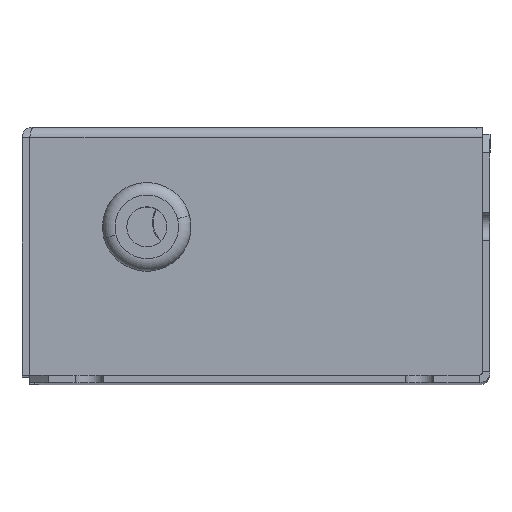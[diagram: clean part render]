
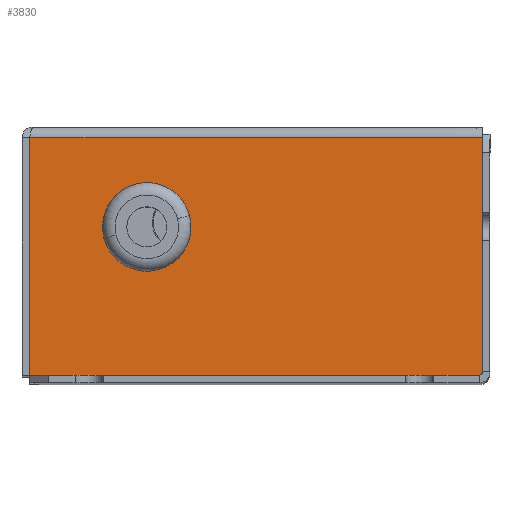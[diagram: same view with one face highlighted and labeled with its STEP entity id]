
A CAD part, top view. The second image highlights one B-rep face of the part: STEP entity #3830.
In plain terms, the highlighted planar face has unit normal (0, 0, 1) as drawn and (0, 0, -1) by its records, which use the part's own axes.
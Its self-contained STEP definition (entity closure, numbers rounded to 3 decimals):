
#369 = CARTESIAN_POINT ( 'NONE',  ( 53.8, -14.8, -160. ) ) ;
#413 = VECTOR ( 'NONE', #6794, 1000. ) ;
#1003 = ORIENTED_EDGE ( 'NONE', *, *, #10880, .F. ) ;
#1259 = EDGE_CURVE ( 'NONE', #9401, #10457, #5170, .T. ) ;
#1325 = CARTESIAN_POINT ( 'NONE',  ( 0., 0., -160. ) ) ;
#1598 = ORIENTED_EDGE ( 'NONE', *, *, #10717, .T. ) ;
#1817 = VERTEX_POINT ( 'NONE', #12427 ) ;
#2208 = DIRECTION ( 'NONE',  ( 0., -1., 0. ) ) ;
#2250 = VERTEX_POINT ( 'NONE', #10045 ) ;
#2308 = DIRECTION ( 'NONE',  ( 0., 1., 0. ) ) ;
#2513 = PLANE ( 'NONE',  #4735 ) ;
#2526 = ORIENTED_EDGE ( 'NONE', *, *, #9393, .T. ) ;
#2735 = ORIENTED_EDGE ( 'NONE', *, *, #9887, .T. ) ;
#2962 = ORIENTED_EDGE ( 'NONE', *, *, #1259, .F. ) ;
#2965 = LINE ( 'NONE', #11500, #413 ) ;
#2986 = EDGE_CURVE ( 'NONE', #10457, #9401, #5732, .T. ) ;
#3437 = DIRECTION ( 'NONE',  ( 0., 0., 1. ) ) ;
#3480 = CARTESIAN_POINT ( 'NONE',  ( 53.8, -14.8, -160. ) ) ;
#3830 = ADVANCED_FACE ( 'NONE', ( #5864, #4653 ), #2513, .F. ) ;
#3899 = VERTEX_POINT ( 'NONE', #10356 ) ;
#4257 = DIRECTION ( 'NONE',  ( 0., 1., 0. ) ) ;
#4408 = AXIS2_PLACEMENT_3D ( 'NONE', #3480, #9225, #6956 ) ;
#4427 = LINE ( 'NONE', #8203, #5937 ) ;
#4653 = FACE_OUTER_BOUND ( 'NONE', #7814, .T. ) ;
#4735 = AXIS2_PLACEMENT_3D ( 'NONE', #5409, #3437, #8145 ) ;
#5139 = AXIS2_PLACEMENT_3D ( 'NONE', #369, #5270, #2308 ) ;
#5170 = CIRCLE ( 'NONE', #5139, 5. ) ;
#5196 = VECTOR ( 'NONE', #4257, 1000. ) ;
#5270 = DIRECTION ( 'NONE',  ( 0., 0., -1. ) ) ;
#5339 = LINE ( 'NONE', #1325, #5196 ) ;
#5409 = CARTESIAN_POINT ( 'NONE',  ( 73.8, 0., -160. ) ) ;
#5659 = VERTEX_POINT ( 'NONE', #6934 ) ;
#5732 = CIRCLE ( 'NONE', #4408, 5. ) ;
#5864 = FACE_BOUND ( 'NONE', #8833, .T. ) ;
#5937 = VECTOR ( 'NONE', #11167, 1000. ) ;
#6014 = CARTESIAN_POINT ( 'NONE',  ( 72.529, 0., -160. ) ) ;
#6794 = DIRECTION ( 'NONE',  ( -1., 0., 0. ) ) ;
#6934 = CARTESIAN_POINT ( 'NONE',  ( 0., -0.5, -160. ) ) ;
#6956 = DIRECTION ( 'NONE',  ( 0., 1., 0. ) ) ;
#7814 = EDGE_LOOP ( 'NONE', ( #1003, #2526, #2735, #1598 ) ) ;
#8089 = LINE ( 'NONE', #6014, #8385 ) ;
#8145 = DIRECTION ( 'NONE',  ( 0., -1., 0. ) ) ;
#8203 = CARTESIAN_POINT ( 'NONE',  ( 0., -0.5, -160. ) ) ;
#8385 = VECTOR ( 'NONE', #2208, 1000. ) ;
#8543 = ORIENTED_EDGE ( 'NONE', *, *, #2986, .F. ) ;
#8833 = EDGE_LOOP ( 'NONE', ( #8543, #2962 ) ) ;
#9225 = DIRECTION ( 'NONE',  ( 0., 0., -1. ) ) ;
#9393 = EDGE_CURVE ( 'NONE', #2250, #1817, #8089, .T. ) ;
#9401 = VERTEX_POINT ( 'NONE', #9875 ) ;
#9875 = CARTESIAN_POINT ( 'NONE',  ( 53.8, -19.8, -160. ) ) ;
#9887 = EDGE_CURVE ( 'NONE', #1817, #3899, #2965, .T. ) ;
#10045 = CARTESIAN_POINT ( 'NONE',  ( 72.529, -0.5, -160. ) ) ;
#10356 = CARTESIAN_POINT ( 'NONE',  ( 0., -38.6, -160. ) ) ;
#10457 = VERTEX_POINT ( 'NONE', #11524 ) ;
#10717 = EDGE_CURVE ( 'NONE', #3899, #5659, #5339, .T. ) ;
#10880 = EDGE_CURVE ( 'NONE', #2250, #5659, #4427, .T. ) ;
#11167 = DIRECTION ( 'NONE',  ( -1., 0., 0. ) ) ;
#11500 = CARTESIAN_POINT ( 'NONE',  ( 73.8, -38.6, -160. ) ) ;
#11524 = CARTESIAN_POINT ( 'NONE',  ( 53.8, -9.8, -160. ) ) ;
#12427 = CARTESIAN_POINT ( 'NONE',  ( 72.529, -38.6, -160. ) ) ;
